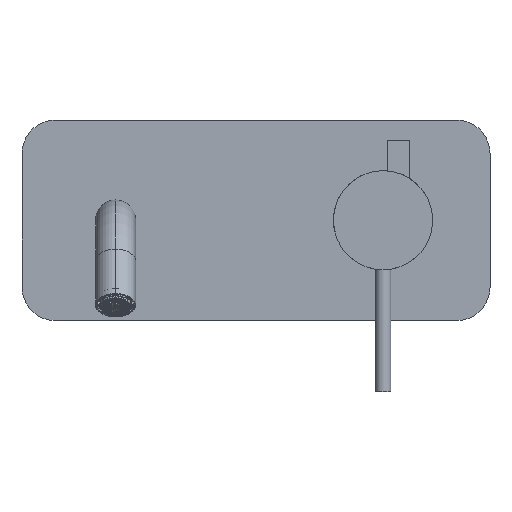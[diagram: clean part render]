
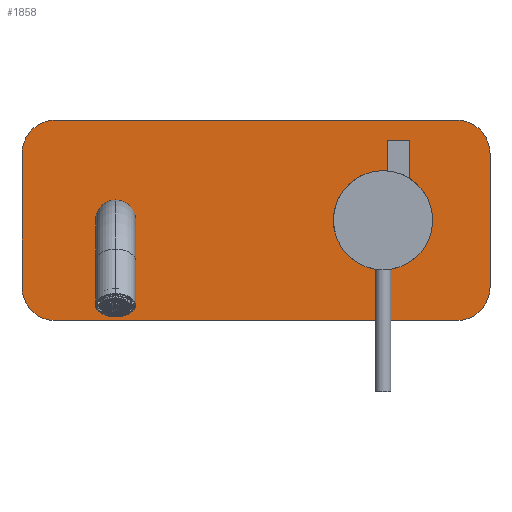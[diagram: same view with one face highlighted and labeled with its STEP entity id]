
A CAD part, top view. The second image highlights one B-rep face of the part: STEP entity #1858.
In plain terms, the highlighted planar face has unit normal (0, 0, 1) as drawn and (0, 0, -1) by its records, which use the part's own axes.
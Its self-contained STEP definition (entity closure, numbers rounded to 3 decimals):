
#1615=CARTESIAN_POINT('',(0.,-63.,0.));
#1616=DIRECTION('',(0.,0.,1.));
#1617=DIRECTION('',(1.,0.,0.));
#1618=AXIS2_PLACEMENT_3D('',#1615,#1616,#1617);
#1620=CARTESIAN_POINT('',(0.,-63.,0.));
#1621=DIRECTION('',(0.,0.,1.));
#1622=DIRECTION('',(-1.,0.,0.));
#1623=AXIS2_PLACEMENT_3D('',#1620,#1621,#1622);
#1625=CARTESIAN_POINT('',(0.,57.,0.));
#1626=DIRECTION('',(0.,0.,-1.));
#1627=DIRECTION('',(1.,0.,0.));
#1628=AXIS2_PLACEMENT_3D('',#1625,#1626,#1627);
#1630=CARTESIAN_POINT('',(0.,57.,0.));
#1631=DIRECTION('',(0.,0.,-1.));
#1632=DIRECTION('',(-1.,0.,0.));
#1633=AXIS2_PLACEMENT_3D('',#1630,#1631,#1632);
#1635=CARTESIAN_POINT('',(30.,90.,0.));
#1636=DIRECTION('',(0.,0.,-1.));
#1637=DIRECTION('',(0.,1.,0.));
#1638=AXIS2_PLACEMENT_3D('',#1635,#1636,#1637);
#1640=DIRECTION('',(-1.,0.,0.));
#1641=VECTOR('',#1640,60.);
#1642=CARTESIAN_POINT('',(30.,105.,0.));
#1643=LINE('',#1642,#1641);
#1644=CARTESIAN_POINT('',(-30.,90.,0.));
#1645=DIRECTION('',(0.,0.,-1.));
#1646=DIRECTION('',(-1.,0.,0.));
#1647=AXIS2_PLACEMENT_3D('',#1644,#1645,#1646);
#1649=DIRECTION('',(0.,-1.,0.));
#1650=VECTOR('',#1649,180.);
#1651=CARTESIAN_POINT('',(-45.,90.,0.));
#1652=LINE('',#1651,#1650);
#1653=CARTESIAN_POINT('',(-30.,-90.,0.));
#1654=DIRECTION('',(0.,0.,-1.));
#1655=DIRECTION('',(0.,-1.,0.));
#1656=AXIS2_PLACEMENT_3D('',#1653,#1654,#1655);
#1658=DIRECTION('',(1.,0.,0.));
#1659=VECTOR('',#1658,60.);
#1660=CARTESIAN_POINT('',(-30.,-105.,0.));
#1661=LINE('',#1660,#1659);
#1662=CARTESIAN_POINT('',(30.,-90.,0.));
#1663=DIRECTION('',(0.,0.,-1.));
#1664=DIRECTION('',(1.,0.,0.));
#1665=AXIS2_PLACEMENT_3D('',#1662,#1663,#1664);
#1667=DIRECTION('',(0.,1.,0.));
#1668=VECTOR('',#1667,180.);
#1669=CARTESIAN_POINT('',(45.,-90.,0.));
#1670=LINE('',#1669,#1668);
#1775=CARTESIAN_POINT('',(7.,-63.,0.));
#1776=CARTESIAN_POINT('',(-7.,-63.,0.));
#1777=VERTEX_POINT('',#1775);
#1778=VERTEX_POINT('',#1776);
#1783=CARTESIAN_POINT('',(20.75,57.,0.));
#1784=CARTESIAN_POINT('',(-20.75,57.,0.));
#1785=VERTEX_POINT('',#1783);
#1786=VERTEX_POINT('',#1784);
#1791=CARTESIAN_POINT('',(30.,105.,0.));
#1792=CARTESIAN_POINT('',(45.,90.,0.));
#1793=VERTEX_POINT('',#1791);
#1794=VERTEX_POINT('',#1792);
#1799=CARTESIAN_POINT('',(-45.,90.,0.));
#1800=CARTESIAN_POINT('',(-30.,105.,0.));
#1801=VERTEX_POINT('',#1799);
#1802=VERTEX_POINT('',#1800);
#1807=CARTESIAN_POINT('',(45.,-90.,0.));
#1808=CARTESIAN_POINT('',(30.,-105.,0.));
#1809=VERTEX_POINT('',#1807);
#1810=VERTEX_POINT('',#1808);
#1815=CARTESIAN_POINT('',(-30.,-105.,0.));
#1816=CARTESIAN_POINT('',(-45.,-90.,0.));
#1817=VERTEX_POINT('',#1815);
#1818=VERTEX_POINT('',#1816);
#1823=CARTESIAN_POINT('',(0.,0.,0.));
#1824=DIRECTION('',(0.,0.,1.));
#1825=DIRECTION('',(1.,0.,0.));
#1826=AXIS2_PLACEMENT_3D('',#1823,#1824,#1825);
#1827=PLANE('',#1826);
#1829=ORIENTED_EDGE('',*,*,#1828,.F.);
#1831=ORIENTED_EDGE('',*,*,#1830,.T.);
#1833=ORIENTED_EDGE('',*,*,#1832,.F.);
#1835=ORIENTED_EDGE('',*,*,#1834,.T.);
#1837=ORIENTED_EDGE('',*,*,#1836,.F.);
#1839=ORIENTED_EDGE('',*,*,#1838,.T.);
#1841=ORIENTED_EDGE('',*,*,#1840,.F.);
#1843=ORIENTED_EDGE('',*,*,#1842,.T.);
#1844=EDGE_LOOP('',(#1829,#1831,#1833,#1835,#1837,#1839,#1841,#1843));
#1845=FACE_OUTER_BOUND('',#1844,.F.);
#1847=ORIENTED_EDGE('',*,*,#1846,.T.);
#1849=ORIENTED_EDGE('',*,*,#1848,.T.);
#1850=EDGE_LOOP('',(#1847,#1849));
#1851=FACE_BOUND('',#1850,.F.);
#1853=ORIENTED_EDGE('',*,*,#1852,.F.);
#1855=ORIENTED_EDGE('',*,*,#1854,.F.);
#1856=EDGE_LOOP('',(#1853,#1855));
#1857=FACE_BOUND('',#1856,.F.);
#1858=ADVANCED_FACE('',(#1845,#1851,#1857),#1827,.F.);
#1619=CIRCLE('',#1618,7.);
#1624=CIRCLE('',#1623,7.);
#1629=CIRCLE('',#1628,20.75);
#1634=CIRCLE('',#1633,20.75);
#1639=CIRCLE('',#1638,15.);
#1648=CIRCLE('',#1647,15.);
#1657=CIRCLE('',#1656,15.);
#1666=CIRCLE('',#1665,15.);
#1828=EDGE_CURVE('',#1793,#1794,#1639,.T.);
#1830=EDGE_CURVE('',#1793,#1802,#1643,.T.);
#1832=EDGE_CURVE('',#1801,#1802,#1648,.T.);
#1834=EDGE_CURVE('',#1801,#1818,#1652,.T.);
#1836=EDGE_CURVE('',#1817,#1818,#1657,.T.);
#1838=EDGE_CURVE('',#1817,#1810,#1661,.T.);
#1840=EDGE_CURVE('',#1809,#1810,#1666,.T.);
#1842=EDGE_CURVE('',#1809,#1794,#1670,.T.);
#1846=EDGE_CURVE('',#1785,#1786,#1629,.T.);
#1848=EDGE_CURVE('',#1786,#1785,#1634,.T.);
#1852=EDGE_CURVE('',#1777,#1778,#1619,.T.);
#1854=EDGE_CURVE('',#1778,#1777,#1624,.T.);
